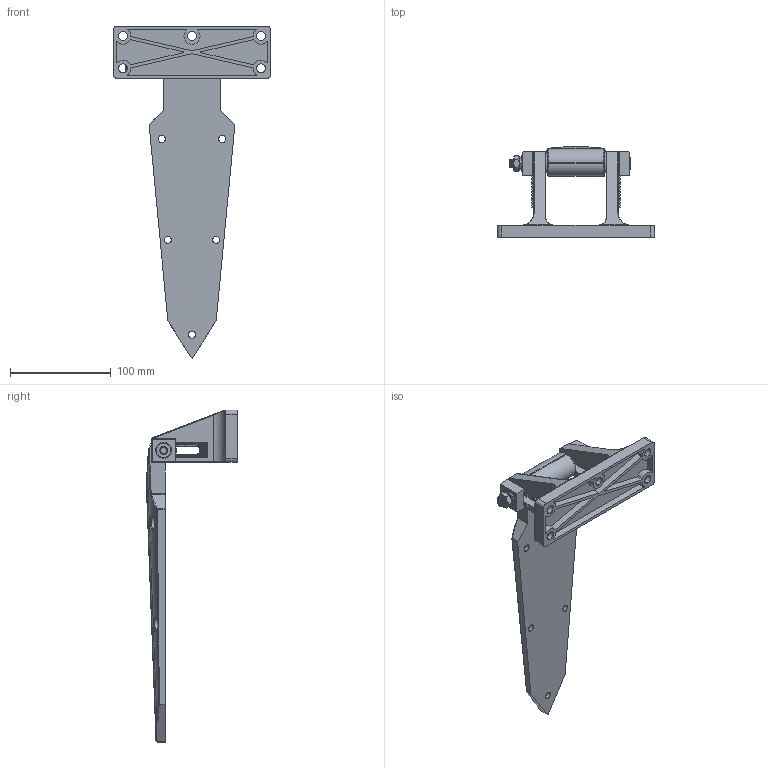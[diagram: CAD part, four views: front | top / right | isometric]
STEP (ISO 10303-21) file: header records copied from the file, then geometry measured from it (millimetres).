
FILE_DESCRIPTION (( 'STEP AP214' ), '1' );
FILE_NAME ('SK2-1470.STEP', '2020-03-24T05:22:12', ( 'admin' ), ( 'Microsoft' ), 'SwSTEP 2.0', 'SolidWorks 2018', '' );
FILE_SCHEMA (( 'AUTOMOTIVE_DESIGN' ));
Length unit declared in the file: millimetre
Products named in the file (10): 2-1470-F1; SK2-1470; 2-1470-F9; 2-1470-F5; 2-1470-F6; 2-1470-F7; 2-1470-F8; 2-1470-F4; 2-1470-F3; 2-1470-F2
Assembly tree (10 placements, depth 2):
  SK2-1470
    2-1470-F1
    2-1470-F2
    2-1470-F3
    2-1470-F4
    2-1470-F8
    2-1470-F7
    2-1470-F6  x2
    2-1470-F5
    2-1470-F9
Bounding box: 156 x 89.83 x 329.13 mm (x, y, z)
Volume: 370436.3 mm3; surface area: 102491.5 mm2
Topology: 10 solids, 10 shells, 773 faces, 2087 edges, 1330 vertices
Faces by surface type: plane 435, cylinder 222, bspline 42, cone 34, torus 24, sphere 16
Entity records: 29360 total; most frequent: CARTESIAN_POINT 10416, ORIENTED_EDGE 4122, DIRECTION 3592, EDGE_CURVE 2061, VECTOR 1352, LINE 1352, VERTEX_POINT 1318, AXIS2_PLACEMENT_3D 1120
